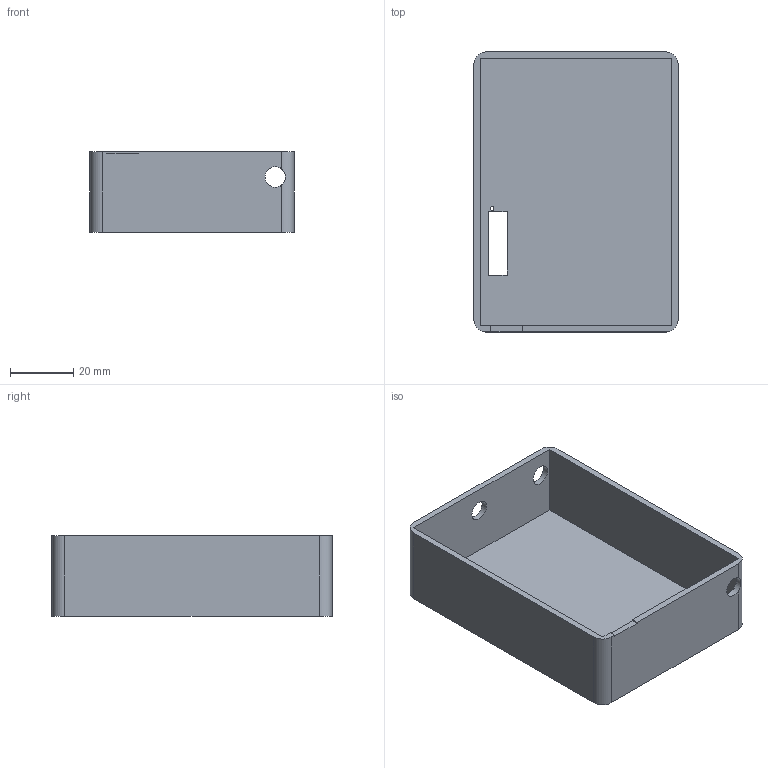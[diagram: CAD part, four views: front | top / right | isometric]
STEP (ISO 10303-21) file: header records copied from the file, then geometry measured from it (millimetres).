
FILE_DESCRIPTION(('Open CASCADE Model'),'2;1');
FILE_NAME('Open CASCADE Shape Model','2026-09-23T04:34:09',('Author'),( 'Open CASCADE'),'Open CASCADE STEP processor 7.9','Open CASCADE 7.9' ,'Unknown');
FILE_SCHEMA(('AUTOMOTIVE_DESIGN { 1 0 10303 214 1 1 1 1 }'));
Length unit declared in the file: millimetre
Products named in the file (1): Open CASCADE STEP translator 7.9 10
Bounding box: 64.8 x 88.8 x 25.5 mm (x, y, z)
Volume: 24771.7 mm3; surface area: 25767.7 mm2
Topology: 1 solids, 1 shells, 26 faces, 78 edges, 52 vertices
Faces by surface type: plane 18, cylinder 8
Full cylindrical faces by diameter (mm): 1.2 x1, 6.5 x3
Entity records: 2121 total; most frequent: CARTESIAN_POINT 627, DIRECTION 251, LINE 158, VECTOR 158, ORIENTED_EDGE 156, PCURVE 156, DEFINITIONAL_REPRESENTATION 156, EDGE_CURVE 78
